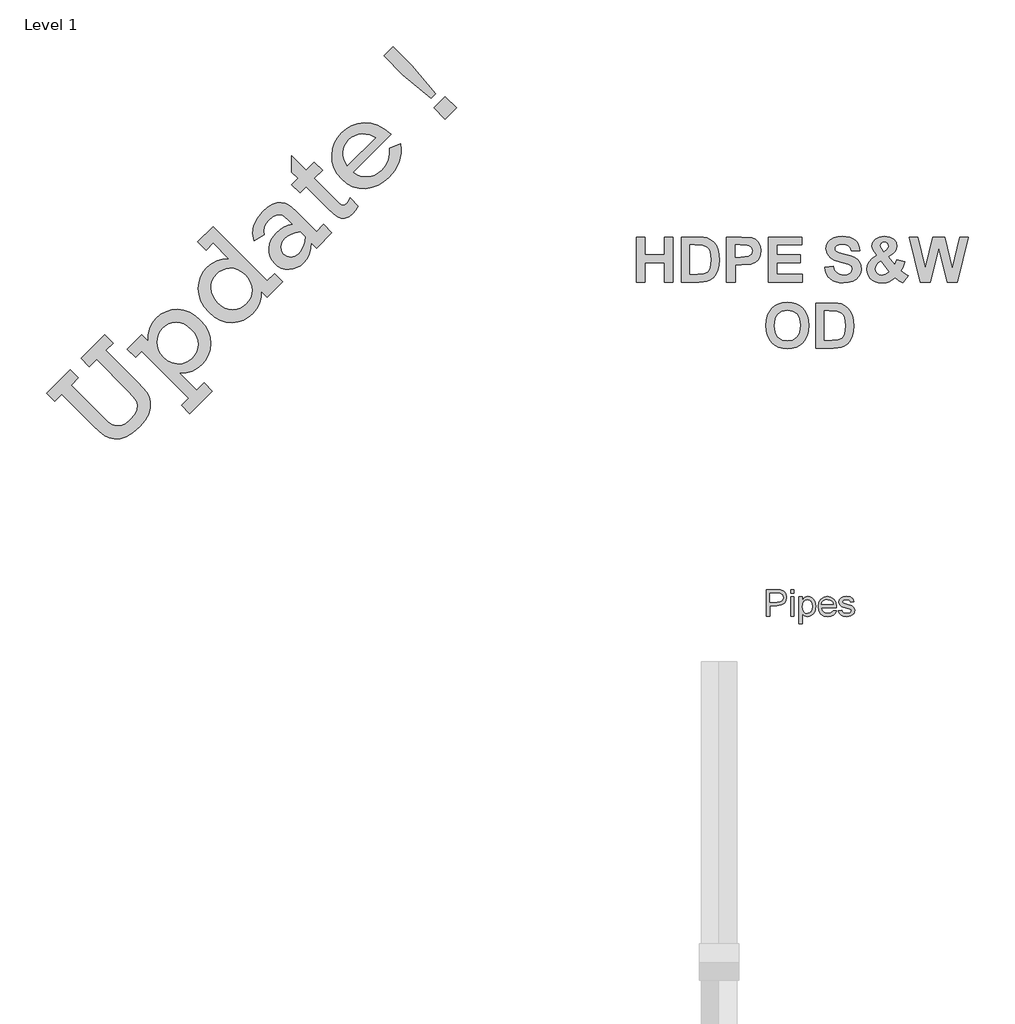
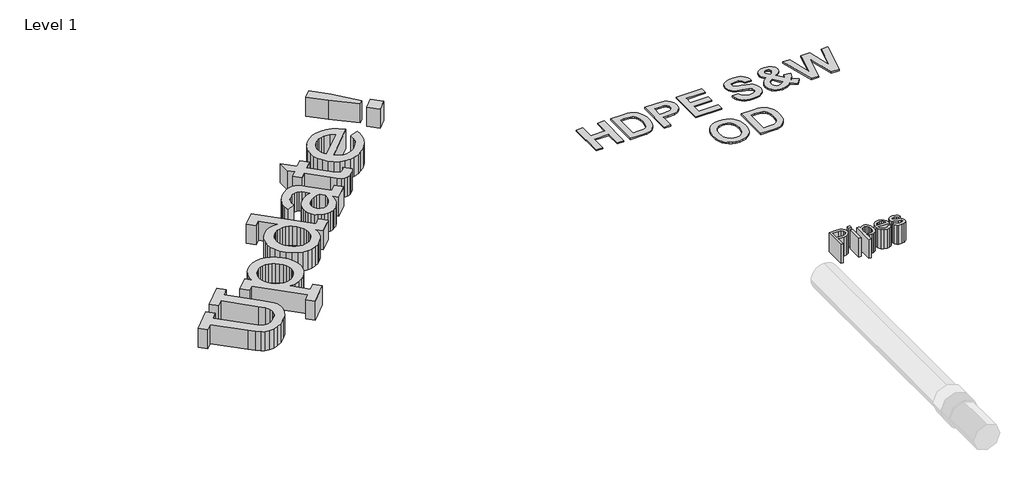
# One storey, part 2 of 2: 4 proxies.
"""IFC4 building model written with IfcOpenShell, lengths in millimetres."""

from ifc_helpers import new_model, si_unit, origin, origin_with_axes, place, context, project, spatial, polyline, outline, extrude, element, save

model = new_model("IFC4")

# Units and contexts
model_context = context("Model", 3, world=origin())
ifc_project = project(units=[si_unit("LENGTHUNIT", "METRE", prefix="MILLI")], contexts=[model_context])

# Site, building, storey
site = spatial("IfcSite", under=ifc_project)
building = spatial("IfcBuilding", under=site)
storey = spatial("IfcBuildingStorey", under=building, Name="Level 1", Elevation=0.0)

# Proxies
placement = place(None, origin())
element("IfcBuildingElementProxy", 1, Name="Rockwell 500", ObjectType="Rockwell 500", at=placement, inside=storey, context=model_context, shape_type="SweptSolid", body=[
    extrude(outline(polyline([(1883.9443289, 10121.4509577), (2057.1790426, 9948.216244), (2092.3094521, 9915.1868815), (2117.0927699, 9896.7067047), (2138.7132213, 9889.7935823), (2164.3550314, 9891.4653832), (2191.7138261, 9902.5580076), (2218.4852314, 9923.9073562), (2244.0027861, 9954.1014348), (2257.4788563, 9981.6070769), (2260.4948754, 10006.5372421), (2254.6322765, 10029.0048898), (2236.8750406, 10054.9629866), (2204.2071486, 10090.3644989), (2028.5325094, 10266.0391381), (1988.0478189, 10225.5544476), (1941.7796011, 10271.8226653), (2074.8007271, 10404.8437913), (2121.0689449, 10358.5755736), (2080.5842543, 10318.0908831), (2263.849773, 10134.8253644), (2314.50082, 10077.8485845), (2325.8080676, 10054.8839149), (2332.5291588, 10025.8420234), (2332.2919438, 9992.7335892), (2322.7242728, 9957.5692919), (2303.0354291, 9921.4109509), (2272.4346963, 9885.3203855), (2233.4410713, 9851.4325307), (2195.9836958, 9829.2924656), (2160.8532864, 9818.0416978), (2128.8405596, 9816.821735), (2100.035883, 9823.4185708), (2074.5296243, 9835.6181985), (2046.4252967, 9857.0805065), (2009.8264135, 9891.4653832), (1831.892584, 10069.3992127), (1791.4078935, 10028.9145222), (1745.1396757, 10075.1827399), (1878.1608017, 10208.2038659), (1924.4290195, 10161.9356482), (1883.9443289, 10121.4509577)])), origin_with_axes(), (0.0, 0.0, 1.0), 150.0),
    extrude(outline(polyline([(2549.049959, 10046.2651039), (2283.007707, 10312.3073559), (2248.3065436, 10277.6061926), (2202.0383259, 10323.8744103), (2283.007707, 10404.8437913), (2319.6969577, 10368.1545406), (2320.1939796, 10405.8152432), (2327.9204105, 10440.0871603), (2342.8762504, 10470.970292), (2365.0614993, 10498.4646382), (2392.2593268, 10521.1553809), (2421.7106966, 10537.0854967), (2453.4156087, 10546.2549854), (2487.3740632, 10548.6638471), (2521.6770442, 10544.2104182), (2554.415536, 10532.7930351), (2585.5895384, 10514.4116978), (2615.1990515, 10489.0664064), (2641.5214427, 10458.1126751), (2660.0326834, 10425.7074139), (2670.7327735, 10391.850623), (2673.6217132, 10356.5423023), (2669.7782656, 10322.0585861), (2660.2811943, 10290.6756086), (2645.1304992, 10262.3933697), (2624.3261804, 10237.2118696), (2598.1421646, 10215.7382657), (2568.6597309, 10200.3870674), (2535.8788794, 10191.158275), (2499.79961, 10188.0518883), (2595.3181767, 10092.5333216), (2635.8028672, 10133.0180121), (2682.071085, 10086.7497944), (2554.8334862, 9959.5121956), (2508.5652684, 10005.7804133), (2549.049959, 10046.2651039)]), holes=[polyline([(2409.0705268, 10277.1543545), (2430.71357, 10259.6908133), (2455.700215, 10247.2426747), (2483.3414085, 10241.2445244), (2512.9480977, 10243.1309483), (2542.035173, 10253.6474792), (2568.1175253, 10273.53965), (2583.1580848, 10291.4267893), (2593.849703, 10310.6581469), (2600.1923798, 10331.2337228), (2602.1861153, 10353.1535168), (2599.5372146, 10375.4121895), (2591.9519831, 10397.0044009), (2579.4304208, 10417.9301513), (2561.9725276, 10438.1894405), (2542.1876684, 10455.0486482), (2521.6007966, 10466.8585656), (2500.2119122, 10473.6191926), (2478.0210153, 10475.3305293), (2456.38362, 10472.7494044), (2436.6552406, 10466.6326466), (2418.8358769, 10456.9802559), (2402.9255291, 10443.7922324), (2388.938317, 10426.8454811), (2378.8764482, 10407.9049942), (2372.7399224, 10386.9707719), (2370.5287399, 10364.0428142), (2372.7512184, 10340.6686663), (2379.9156757, 10318.3958738), (2392.0221118, 10297.2244365), (2409.0705268, 10277.1543545)])]), origin_with_axes(), (0.0, 0.0, 1.0), 150.0),
    extrude(outline(polyline([(3034.8662452, 10751.8554244), (3081.134463, 10705.5872066), (2994.3815547, 10618.8342984), (2960.0418618, 10653.1739912), (2958.6242199, 10616.6485318), (2950.214384, 10583.1616832), (2934.812354, 10552.7134457), (2912.4181299, 10525.3038192), (2887.1208463, 10504.1577978), (2859.1238303, 10488.6145684), (2828.4270818, 10478.674131), (2795.0306009, 10474.3364856), (2760.7982196, 10476.8215949), (2727.5937699, 10487.3494218), (2695.4172518, 10505.9199662), (2664.2686652, 10532.5332282), (2637.4549001, 10564.0065733), (2618.5539491, 10596.8862644), (2607.5658122, 10631.1723015), (2604.4904894, 10666.8646846), (2608.1927375, 10701.6420956), (2617.5373135, 10733.1832164), (2632.5242173, 10761.4880471), (2653.1534489, 10786.5565877), (2679.6876392, 10808.1431512), (2709.588023, 10823.2006547), (2742.8546005, 10831.7290981), (2779.4873715, 10833.7284816), (2687.8546122, 10925.3612409), (2647.3699217, 10884.8765504), (2601.1017039, 10931.1447681), (2687.8546122, 11017.8976764), (2994.3815547, 10711.3707339), (3034.8662452, 10751.8554244)]), holes=[polyline([(2714.1515875, 10586.7537959), (2734.566196, 10569.1970631), (2755.5060663, 10556.8308201), (2776.9711983, 10549.6550668), (2798.9615921, 10547.6698033), (2820.4210761, 10550.1916245), (2840.293479, 10556.5371253), (2858.5788006, 10566.7063058), (2875.2770411, 10580.6991658), (2888.8660708, 10597.1347754), (2898.7274366, 10615.5358805), (2904.8611383, 10635.9024812), (2907.267176, 10658.2345776), (2905.2226087, 10681.1540633), (2898.0044957, 10703.2828325), (2885.6128368, 10724.6208851), (2868.047632, 10745.168221), (2847.4805282, 10762.685418), (2826.3542747, 10774.6619507), (2804.6688716, 10781.0978191), (2782.4243189, 10781.9930232), (2760.8236355, 10778.4602144), (2741.0698401, 10771.6120437), (2723.1629329, 10761.4485113), (2707.1029137, 10747.969617), (2692.9603823, 10730.7884747), (2683.1554963, 10711.8677557), (2677.6882557, 10691.2074603), (2676.5586606, 10668.8075883), (2679.6876392, 10646.226981), (2686.9961199, 10625.0244799), (2698.4841026, 10605.2000848), (2714.1515875, 10586.7537959)])]), origin_with_axes(), (0.0, 0.0, 1.0), 150.0),
    extrude(outline(polyline([(3312.4755517, 11029.4647308), (3358.7437694, 10983.1965131), (3271.9908611, 10896.4436048), (3241.9888137, 10926.4456523), (3239.5545361, 10892.6989969), (3231.6191301, 10862.3976067), (3218.1825957, 10835.5414818), (3199.2449329, 10812.1306221), (3181.5385287, 10797.2369099), (3162.1264359, 10786.262893), (3141.0086544, 10779.2085712), (3118.1851842, 10776.0739446), (3095.2769944, 10777.2374276), (3073.9050539, 10783.0774346), (3054.0693629, 10793.5939655), (3035.7699214, 10808.7870204), (3020.5570985, 10827.3999247), (3010.2523667, 10847.9049008), (3004.8557258, 10870.3019488), (3004.3671759, 10894.5910688), (3008.4873743, 10919.0722199), (3016.9169781, 10942.0453614), (3029.6559876, 10963.5104934), (3046.7044025, 10983.4676159), (3065.7493769, 10999.9032255), (3087.0987254, 11013.4244796), (3110.7524481, 11024.0313781), (3136.7105448, 11031.7239211), (3112.6727598, 11055.7617061), (3095.2995863, 11071.3049355), (3080.4115221, 11080.7031673), (3064.8118129, 11084.1032487), (3045.3037045, 11081.6520272), (3023.7849167, 11072.1973157), (3002.1531694, 11054.5869272), (2986.5873481, 11035.4064014), (2977.2117083, 11015.186648), (2974.0262499, 10993.9276671), (2977.030973, 10971.6294587), (2918.5631276, 10937.5608686), (2911.8476844, 10980.8977869), (2913.2808582, 11001.9943885), (2917.9079624, 11022.7097518), (2936.7439617, 11062.9967631), (2968.3556822, 11101.758821), (2996.188907, 11125.8643818), (3024.0221317, 11142.5146144), (3050.319107, 11151.7772947), (3073.5435835, 11153.7201984), (3094.0683275, 11149.8908708), (3112.2661056, 11141.8368573), (3132.474563, 11126.7793538), (3159.0313452, 11101.9395563), (3271.9908611, 10988.9800403), (3312.4755517, 11029.4647308)]), holes=[polyline([(3180.7195722, 10987.7148937), (3154.411301, 10982.755971), (3131.062569, 10974.6567737), (3110.6733764, 10963.4173018), (3093.2437231, 10949.0375555), (3077.7795653, 10927.8350543), (3071.329577, 10904.1700357), (3074.4133718, 10880.9568552), (3087.5505635, 10861.1098682), (3106.0420362, 10848.5148822), (3127.7189673, 10844.5274113), (3150.2317989, 10849.8252126), (3171.2309729, 10865.0860432), (3186.6499468, 10884.0858338), (3198.0249701, 10906.203307), (3205.3560427, 10931.4384629), (3208.6431646, 10959.7913014), (3180.7195722, 10987.7148937)])]), origin_with_axes(), (0.0, 0.0, 1.0), 150.0),
    extrude(outline(polyline([(3179.4544257, 11208.7540746), (3133.1862079, 11255.0222923), (3167.8873712, 11289.7234556), (3133.1862079, 11324.4246189), (3133.1862079, 11416.9610544), (3214.155589, 11335.9916734), (3260.4238067, 11382.2598911), (3306.6920244, 11335.9916734), (3260.4238067, 11289.7234556), (3380.070526, 11170.0767363), (3404.1873827, 11147.5864967), (3418.8834157, 11137.7703147), (3429.6032738, 11138.3915921), (3441.7916055, 11147.2137303), (3453.8782738, 11162.1921621), (3462.8472593, 11179.8364385), (3509.1154771, 11133.5682207), (3495.131089, 11110.9085418), (3478.3001211, 11091.1858104), (3456.0583924, 11073.8691166), (3433.0711309, 11065.6569597), (3410.9649536, 11065.7360314), (3391.3664776, 11073.293023), (3368.5486554, 11090.8243399), (3336.7844395, 11120.8263873), (3214.155589, 11243.4552379), (3179.4544257, 11208.7540746)])), origin_with_axes(), (0.0, 0.0, 1.0), 150.0),
    extrude(outline(polyline([(3694.188348, 11538.415126), (3480.197841, 11324.4246189), (3499.7567812, 11311.9708323), (3520.0273663, 11303.4367409), (3541.0095964, 11298.8223446), (3562.7034714, 11298.1276436), (3584.267443, 11301.5051331), (3604.8599628, 11309.1073086), (3624.4810307, 11320.9341699), (3643.1306468, 11336.9857171), (3665.6491263, 11364.5647829), (3680.3395114, 11394.4369269), (3687.201802, 11426.6021491), (3686.2359981, 11461.0604494), (3747.7763424, 11484.8271316), (3751.0719363, 11458.6176999), (3750.7471777, 11432.8544583), (3746.8020666, 11407.5374068), (3739.236603, 11382.6665454), (3715.887871, 11336.4096236), (3683.3442345, 11296.2299237), (3653.359131, 11270.6502413), (3621.0583574, 11251.5657311), (3586.4419137, 11238.9763931), (3549.5098, 11232.8822272), (3512.4477828, 11234.1247819), (3477.4416288, 11243.5456055), (3444.491338, 11261.1446981), (3413.5969104, 11286.9220596), (3388.9717359, 11316.5343967), (3371.8470733, 11348.6205472), (3362.2229225, 11383.1805112), (3360.0992836, 11420.2142885), (3364.7532157, 11456.9317791), (3375.4617778, 11490.5428831), (3392.2249699, 11521.0476004), (3415.0427922, 11548.445931), (3442.0288205, 11570.8909868), (3472.3810425, 11587.6202911), (3506.099458, 11598.6338439), (3543.1840671, 11603.9316452), (3581.697614, 11601.6668069), (3619.7028432, 11589.992441), (3657.1997545, 11568.9085473), (3694.188348, 11538.415126)]), holes=[polyline([(3607.4354398, 11521.0645443), (3572.6439088, 11536.7207332), (3531.7073803, 11541.216522), (3510.4032155, 11538.6918768), (3490.4997488, 11532.2023526), (3471.9969801, 11521.7479494), (3454.8949094, 11507.3286672), (3441.692766, 11491.7035421), (3431.9980155, 11474.7398468), (3425.810658, 11456.4375812), (3423.1306935, 11436.7967454), (3423.941178, 11416.817031), (3428.2251677, 11397.4981298), (3435.9826624, 11378.8400418), (3447.2136623, 11360.8427669), (3607.4354398, 11521.0645443)])]), origin_with_axes(), (0.0, 0.0, 1.0), 150.0),
    extrude(outline(polyline([(3947.3080314, 11768.4007005), (3921.1014237, 11742.1940928), (3759.8856025, 11877.5647767), (3653.7036575, 11983.7467217), (3705.7554025, 12035.7984667), (3811.9373475, 11929.6165217), (3947.3080314, 11768.4007005)])), origin_with_axes(), (0.0, 0.0, 1.0), 150.0),
    extrude(outline(polyline([(4000.7152905, 11625.1680342), (3937.0964912, 11688.7868336), (4000.7152905, 11752.405633), (4064.3340899, 11688.7868336), (4000.7152905, 11625.1680342)])), origin_with_axes(), (0.0, 0.0, 1.0), 150.0),
])
element("IfcBuildingElementProxy", 2, Name="Arial 150", ObjectType="Arial 150", at=placement, inside=storey, context=model_context, shape_type="SweptSolid", body=[
    extrude(outline(polyline([(5819.3824788, 8813.3104741), (5819.3824788, 8963.9949394), (5875.2269656, 8963.9949394), (5897.7413437, 8962.5601996), (5916.043473, 8955.5152594), (5927.9076673, 8940.9471324), (5932.3958277, 8920.4009229), (5929.3653997, 8902.6414196), (5920.2741159, 8887.8433664), (5903.2733692, 8877.8553702), (5876.5145526, 8874.5260381), (5838.2180369, 8874.5260381), (5838.2180369, 8813.3104741), (5819.3824788, 8813.3104741)]), holes=[polyline([(5838.2180369, 8893.3615963), (5877.6181986, 8893.3615963), (5894.3200412, 8895.0906417), (5905.356501, 8900.2777778), (5911.5093274, 8908.6011079), (5913.5602695, 8919.7387353), (5908.7226213, 8935.3369319), (5896.0122984, 8943.8717942), (5877.1767402, 8945.1593812), (5838.2180369, 8945.1593812), (5838.2180369, 8893.3615963)])]), origin_with_axes(), (0.0, 0.0, 1.0), 150.0),
    extrude(outline(polyline([(5955.9402754, 8813.3104741), (5955.9402754, 8923.9693783), (5974.7758335, 8923.9693783), (5974.7758335, 8813.3104741), (5955.9402754, 8813.3104741)])), origin_with_axes(), (0.0, 0.0, 1.0), 150.0),
    extrude(outline(polyline([(5955.9402754, 8945.1593812), (5955.9402754, 8963.9949394), (5974.7758335, 8963.9949394), (5974.7758335, 8945.1593812), (5955.9402754, 8945.1593812)])), origin_with_axes(), (0.0, 0.0, 1.0), 150.0),
    extrude(outline(polyline([(6003.0291708, 8770.9304683), (6003.0291708, 8923.9693783), (6021.8647289, 8923.9693783), (6021.8647289, 8905.5017021), (6034.8877515, 8921.1182928), (6052.4725109, 8926.3238231), (6065.210425, 8924.5028072), (6076.3480524, 8919.0397596), (6085.4163436, 8910.265774), (6091.946249, 8898.5119442), (6097.2069615, 8869.4860548), (6095.721638, 8853.3774219), (6091.2656673, 8838.9702433), (6083.9816038, 8826.9956844), (6074.0120017, 8818.1849106), (6062.4007263, 8812.7632497), (6050.1916425, 8810.9560294), (6033.8024997, 8815.7936776), (6021.8647289, 8828.0257539), (6021.8647289, 8770.9304683), (6003.0291708, 8770.9304683)]), holes=[polyline([(6021.8647289, 8867.7570094), (6023.9018755, 8850.8712258), (6030.0133151, 8839.0622138), (6039.0310225, 8832.1092441), (6049.7869723, 8829.7915875), (6060.7176661, 8832.1920175), (6069.9652998, 8839.3933076), (6076.2698775, 8851.634581), (6078.3714034, 8869.154961), (6076.3204612, 8885.9487741), (6070.1676349, 8897.923333), (6061.163723, 8905.0970319), (6050.5595245, 8907.4882649), (6039.9139393, 8904.9452806), (6030.5651381, 8897.3163277), (6024.0398312, 8884.8405296), (6021.8647289, 8867.7570094)])]), origin_with_axes(), (0.0, 0.0, 1.0), 150.0),
    extrude(outline(polyline([(6195.8729126, 8846.2727009), (6214.3405888, 8843.9182561), (6207.6865232, 8830.0031197), (6197.0685291, 8819.6012563), (6182.7257298, 8813.1173361), (6164.8972486, 8810.9560294), (6142.7967378, 8814.6854331), (6125.7913925, 8825.8736443), (6114.9480707, 8843.794096), (6111.3336301, 8867.7202212), (6114.9848589, 8892.4510884), (6125.9385453, 8910.9463557), (6142.7139643, 8922.4794562), (6163.8303908, 8926.3238231), (6184.2892283, 8922.4886533), (6200.6369845, 8910.9831439), (6211.3561461, 8892.5246648), (6214.9292, 8867.8305858), (6214.8188354, 8862.7538143), (6130.1691883, 8862.7538143), (6133.4295425, 8848.6547368), (6141.003313, 8838.2896616), (6151.9340068, 8831.916106), (6165.2651306, 8829.7915875), (6183.7328068, 8833.7279249), (6195.8729126, 8846.2727009)]), holes=[polyline([(6130.1691883, 8881.5893724), (6196.0936418, 8881.5893724), (6193.546059, 8891.5405804), (6188.5520609, 8898.659097), (6177.5707834, 8905.2809729), (6163.7568145, 8907.4882649), (6151.0602871, 8905.7270299), (6140.5618547, 8900.4433247), (6133.2639956, 8892.2073665), (6130.1691883, 8881.5893724)])]), origin_with_axes(), (0.0, 0.0, 1.0), 150.0),
    extrude(outline(polyline([(6226.7014238, 8846.2727009), (6245.536982, 8848.6271457), (6248.5076291, 8840.57053), (6254.2557853, 8834.6476299), (6274.2317776, 8829.7915875), (6293.4352178, 8834.2429597), (6299.6892117, 8844.6908083), (6298.1165161, 8849.4916684), (6293.3984296, 8853.1520942), (6274.0110484, 8858.5231713), (6245.6473466, 8867.7386153), (6233.2681174, 8878.4991637), (6229.0558686, 8893.6926901), (6232.4403829, 8907.7273882), (6241.674221, 8918.4511484), (6253.64878, 8924.0245606), (6269.8539819, 8926.3238231), (6292.7730302, 8922.626609), (6307.3411572, 8912.6202187), (6313.8158803, 8895.7160411), (6294.9803221, 8893.3615963), (6287.8985937, 8903.7542627), (6271.3255098, 8907.4882649), (6253.2992921, 8903.9198096), (6247.8914267, 8895.6056765), (6250.1355069, 8890.1242347), (6257.162053, 8885.9671682), (6273.385649, 8881.9572544), (6301.031981, 8873.0912984), (6313.8710626, 8863.0481199), (6318.5247698, 8846.6773711), (6313.0617222, 8828.6511533), (6297.2979787, 8815.5729484), (6273.9742602, 8810.9560294), (6254.9823522, 8813.1817154), (6241.122398, 8819.8587737), (6231.8701659, 8830.9136276), (6226.7014238, 8846.2727009)])), origin_with_axes(), (0.0, 0.0, 1.0), 150.0),
])
element("IfcBuildingElementProxy", 3, Name="Arial 250", ObjectType="Arial 250", at=placement, inside=storey, context=model_context, shape_type="SweptSolid", body=[
    extrude(outline(polyline([(5083.3390295, 10703.2450654), (5083.3390295, 10958.3099154), (5131.9228104, 10958.3099154), (5131.9228104, 10857.093705), (5241.2363176, 10857.093705), (5241.2363176, 10958.3099154), (5289.8200985, 10958.3099154), (5289.8200985, 10703.2450654), (5241.2363176, 10703.2450654), (5241.2363176, 10812.5585725), (5131.9228104, 10812.5585725), (5131.9228104, 10703.2450654), (5083.3390295, 10703.2450654)])), origin_with_axes(), (0.0, 0.0, 1.0), 10.0),
    extrude(outline(polyline([(5338.4038795, 10958.3099154), (5432.8512557, 10958.3099154), (5461.0020142, 10957.0921578), (5481.5615569, 10953.4388852), (5502.4690304, 10944.2424436), (5520.1502371, 10929.9377464), (5534.296784, 10911.1811174), (5544.6002779, 10888.6288806), (5550.8867535, 10861.3242263), (5552.9822453, 10828.3103452), (5551.0211812, 10799.0209044), (5545.137989, 10774.0331525), (5533.4664948, 10748.8556201), (5517.683092, 10728.9919389), (5501.8996892, 10717.3837047), (5481.3717765, 10708.6221765), (5461.39739, 10704.5893432), (5435.6347015, 10703.2450654), (5338.4038795, 10703.2450654), (5338.4038795, 10958.3099154)]), holes=[polyline([(5386.9876604, 10913.7747828), (5386.9876604, 10747.7801979), (5428.3597864, 10747.7801979), (5461.887656, 10750.1840829), (5484.2501125, 10760.5903745), (5492.3236868, 10770.3245272), (5498.7683127, 10784.7873748), (5502.9909264, 10804.6826861), (5504.3984644, 10830.7142302), (5502.9909264, 10856.3820286), (5498.7683127, 10875.3126229), (5492.0232012, 10889.1665917), (5483.04817, 10899.6045134), (5471.5901787, 10906.9110586), (5457.3961867, 10911.3708978), (5411.9121522, 10913.7747828), (5386.9876604, 10913.7747828)])]), origin_with_axes(), (0.0, 0.0, 1.0), 10.0),
    extrude(outline(polyline([(5593.4687294, 10703.2450654), (5593.4687294, 10958.3099154), (5675.6436402, 10958.3099154), (5736.5631468, 10954.5143075), (5756.6087009, 10945.4602012), (5773.0958727, 10929.6847059), (5784.1268581, 10907.7729778), (5787.8038532, 10880.3101733), (5785.6451013, 10858.8254511), (5779.1688453, 10841.0572617), (5769.3635249, 10826.8553622), (5757.2175797, 10816.0695098), (5730.1738735, 10804.0184548), (5676.0864611, 10800.4126273), (5642.0525104, 10800.4126273), (5642.0525104, 10703.2450654), (5593.4687294, 10703.2450654)]), holes=[polyline([(5642.0525104, 10913.7747828), (5642.0525104, 10844.9477598), (5672.2275931, 10844.9477598), (5715.7821936, 10848.7433677), (5732.9889493, 10860.6679025), (5737.6622916, 10869.4531532), (5739.2200723, 10879.5510517), (5737.0296902, 10891.6179218), (5730.4585441, 10901.3757971), (5720.550426, 10908.3660416), (5708.3491281, 10912.1300194), (5668.6850257, 10913.7747828), (5642.0525104, 10913.7747828)])]), origin_with_axes(), (0.0, 0.0, 1.0), 10.0),
    extrude(outline(polyline([(5828.2903374, 10703.2450654), (5828.2903374, 10958.3099154), (6018.5768128, 10958.3099154), (6018.5768128, 10913.7747828), (5876.8741183, 10913.7747828), (5876.8741183, 10857.093705), (6010.4795159, 10857.093705), (6010.4795159, 10812.5585725), (5876.8741183, 10812.5585725), (5876.8741183, 10747.7801979), (6022.6254612, 10747.7801979), (6022.6254612, 10703.2450654), (5828.2903374, 10703.2450654)])), origin_with_axes(), (0.0, 0.0, 1.0), 10.0),
    extrude(outline(polyline([(6148.133562, 10788.266682), (6196.7173429, 10792.3153304), (6203.8024776, 10770.5854753), (6215.6953823, 10755.4979339), (6232.4751322, 10746.6731456), (6254.2208024, 10743.7315495), (6276.7888543, 10746.3331224), (6292.999263, 10754.1378411), (6302.7729533, 10765.4218671), (6306.03085, 10778.4613617), (6300.6221088, 10793.6754233), (6281.6756994, 10804.5877959), (6239.5444519, 10815.4052784), (6203.5810672, 10826.5865067), (6180.2064486, 10840.2665101), (6162.2247562, 10863.5620535), (6156.2308588, 10891.4439564), (6158.9826745, 10910.2322155), (6167.2381217, 10927.7552719), (6180.6808996, 10942.6372178), (6198.9947076, 10953.5021454), (6221.8790602, 10960.1444592), (6249.0334716, 10962.3585638), (6290.9986613, 10956.8391173), (6307.5392088, 10949.9398092), (6321.1183914, 10940.2807779), (6331.7797004, 10928.3206593), (6339.5666272, 10914.5180894), (6344.4791718, 10898.8730681), (6346.5173342, 10881.3855955), (6297.9335532, 10881.3855955), (6292.5643496, 10898.0783627), (6283.2888328, 10909.3149436), (6269.2529911, 10915.6963093), (6249.6028128, 10917.8234312), (6228.9167498, 10915.5618815), (6213.2914973, 10908.7772324), (6206.9338541, 10901.9767683), (6204.8146397, 10893.2152401), (6206.7440737, 10884.9439779), (6212.5323758, 10877.9695484), (6229.3358482, 10869.8010839), (6260.1356247, 10861.3637639), (6293.0071705, 10852.5864207), (6316.0259508, 10843.3978866), (6332.1572843, 10832.272011), (6344.3664897, 10817.6826432), (6352.0525957, 10799.4479103), (6354.614631, 10777.3859394), (6351.5860522, 10756.3203156), (6342.5003158, 10736.6464148), (6327.8714104, 10720.1038904), (6308.2133246, 10708.4323961), (6283.3125553, 10701.5054118), (6252.9555998, 10699.196417), (6230.2531201, 10700.617793), (6210.3499012, 10704.8819213), (6193.2459432, 10711.9888017), (6178.941246, 10721.9384342), (6167.3369656, 10734.6122062), (6158.3342582, 10749.8915048), (6151.9331236, 10767.7763301), (6148.133562, 10788.266682)])), origin_with_axes(), (0.0, 0.0, 1.0), 10.0),
    extrude(outline(polyline([(6621.8254262, 10738.5442187), (6591.0810023, 10699.196417), (6568.4655054, 10712.1172988), (6546.7989103, 10729.1184591), (6531.2843631, 10715.7705714), (6514.8525439, 10706.4713321), (6496.3647705, 10701.0151457), (6474.6823605, 10699.196417), (6452.9683204, 10700.896533), (6434.1326162, 10705.9968811), (6418.1752481, 10714.4974612), (6405.0962159, 10726.3982735), (6391.5269177, 10749.0454005), (6387.0038183, 10774.8555342), (6390.5384781, 10798.5227308), (6401.1424577, 10819.6753373), (6418.7841268, 10838.2659084), (6443.4318555, 10854.2469991), (6422.3978618, 10882.9038387), (6417.1077333, 10896.1410212), (6415.3443572, 10908.6507122), (6419.9781618, 10929.4000353), (6433.8795757, 10946.7333113), (6456.3527374, 10958.4522507), (6486.7017855, 10962.3585638), (6516.1730992, 10958.3020078), (6538.4169429, 10946.1323401), (6552.3895244, 10928.1111101), (6557.0470516, 10906.4998677), (6554.6510741, 10891.957945), (6547.4631417, 10878.1909589), (6532.9844791, 10863.9337068), (6508.7163112, 10847.920986), (6544.6480659, 10800.6024077), (6556.9205314, 10829.3857675), (6602.8473868, 10819.2641464), (6590.8912219, 10785.4199761), (6580.0104793, 10767.5173589), (6601.993375, 10750.690164), (6621.8254262, 10738.5442187)]), holes=[polyline([(6484.1713802, 10875.6289236), (6495.6847241, 10885.5607642), (6505.268634, 10896.6629173), (6508.4632707, 10907.7018102), (6506.921305, 10916.257743), (6502.2954079, 10923.4535829), (6495.0600303, 10928.3404281), (6485.6896234, 10929.9693765), (6476.603887, 10928.5302085), (6469.7164402, 10924.2127045), (6463.9281381, 10910.9280769), (6466.3636532, 10901.0753114), (6473.6701984, 10889.3563721), (6484.1713802, 10875.6289236)]), polyline([(6466.8381042, 10822.8699739), (6453.1264707, 10813.6735323), (6443.3685954, 10802.7848822), (6437.5328483, 10790.9157), (6435.5875992, 10778.7776623), (6437.9519467, 10764.7101906), (6445.0449889, 10753.5052398), (6456.1076044, 10746.1749721), (6470.3806715, 10743.7315495), (6490.4973933, 10748.1913888), (6511.6262772, 10762.8993693), (6466.8381042, 10822.8699739)])]), origin_with_axes(), (0.0, 0.0, 1.0), 10.0),
    extrude(outline(polyline([(6690.0831081, 10703.2450654), (6625.8740746, 10958.3099154), (6675.7230582, 10958.3099154), (6716.9686639, 10783.0793513), (6761.3140161, 10958.3099154), (6826.6617318, 10958.3099154), (6870.8173036, 10780.1693852), (6912.0629093, 10958.3099154), (6961.9118929, 10958.3099154), (6898.6517614, 10703.2450654), (6841.1483019, 10703.2450654), (6793.8929838, 10893.9111015), (6745.6887636, 10703.2450654), (6690.0831081, 10703.2450654)])), origin_with_axes(), (0.0, 0.0, 1.0), 10.0),
])
element("IfcBuildingElementProxy", 4, Name="Arial 250", ObjectType="Arial 250", at=placement, inside=storey, context=model_context, shape_type="SweptSolid", body=[
    extrude(outline(polyline([(5815.4153448, 10456.046914), (5818.2778658, 10491.8205184), (5826.8654286, 10521.3313697), (5836.9633271, 10539.7637905), (5850.1767871, 10556.2193322), (5865.6517967, 10569.6858327), (5882.5343443, 10579.1511298), (5907.7435067, 10586.6949005), (5936.5584966, 10589.2094907), (5962.8509887, 10587.0289931), (5986.3758501, 10580.4875001), (6007.1330807, 10569.5850118), (6025.1226806, 10554.3215282), (6039.652742, 10535.1754541), (6050.0313573, 10512.6251941), (6056.2585265, 10486.6707483), (6058.3342496, 10457.3121167), (6056.2743416, 10428.1531498), (6050.0946175, 10402.3548775), (6039.7950773, 10379.9172996), (6025.3757211, 10360.8404162), (6007.504734, 10345.6184471), (5986.8503011, 10334.745612), (5963.4124224, 10328.2219109), (5937.1910979, 10326.0473439), (5910.6930103, 10328.2120265), (5887.0574437, 10334.7060744), (5866.284398, 10345.5294875), (5848.3738733, 10360.6822659), (5833.9545171, 10379.6306521), (5823.654977, 10401.8408889), (5817.4752529, 10427.3129762), (5815.4153448, 10456.046914)]), holes=[polyline([(5863.9991258, 10457.8181977), (5869.162734, 10420.0677143), (5875.6172443, 10405.0948319), (5884.6535587, 10392.7235225), (5908.0993449, 10376.1177379), (5937.1278377, 10370.5824764), (5966.0930704, 10376.0782004), (5989.3490763, 10392.5653721), (5998.2746854, 10404.9307509), (6004.6501206, 10420.0439917), (6009.7504686, 10458.5140592), (6004.7845483, 10496.4068779), (5998.5771479, 10511.2255637), (5989.8867874, 10523.2924338), (5966.7652093, 10539.3288771), (5937.1278377, 10544.6743582), (5907.427206, 10539.2656169), (5884.1158476, 10523.0393932), (5875.3147818, 10510.8499567), (5869.0283062, 10495.9166119), (5863.9991258, 10457.8181977)])]), origin_with_axes(), (0.0, 0.0, 1.0), 10.0),
    extrude(outline(polyline([(6098.8207337, 10585.1608423), (6193.26811, 10585.1608423), (6221.4188685, 10583.9430848), (6241.9784112, 10580.2898122), (6262.8858846, 10571.0933706), (6280.5670914, 10556.7886734), (6294.7136383, 10538.0320444), (6305.0171322, 10515.4798075), (6311.3036077, 10488.1751533), (6313.3990996, 10455.1612722), (6311.4380355, 10425.8718313), (6305.5548433, 10400.8840794), (6293.883349, 10375.7065471), (6278.0999462, 10355.8428658), (6262.3165434, 10344.2346317), (6241.7886308, 10335.4731035), (6221.8142443, 10331.4402701), (6196.0515558, 10330.0959923), (6098.8207337, 10330.0959923), (6098.8207337, 10585.1608423)]), holes=[polyline([(6147.4045147, 10540.6257098), (6147.4045147, 10374.6311249), (6188.7766406, 10374.6311249), (6222.3045103, 10377.0350099), (6244.6669668, 10387.4413015), (6252.740541, 10397.1754542), (6259.1851669, 10411.6383018), (6263.4077807, 10431.5336131), (6264.8153186, 10457.5651572), (6263.4077807, 10483.2329555), (6259.1851669, 10502.1635499), (6252.4400554, 10516.0175186), (6243.4650243, 10526.4554403), (6232.007033, 10533.7619855), (6217.813041, 10538.2218248), (6172.3290065, 10540.6257098), (6147.4045147, 10540.6257098)])]), origin_with_axes(), (0.0, 0.0, 1.0), 10.0),
])

save(model, "model.ifc")
